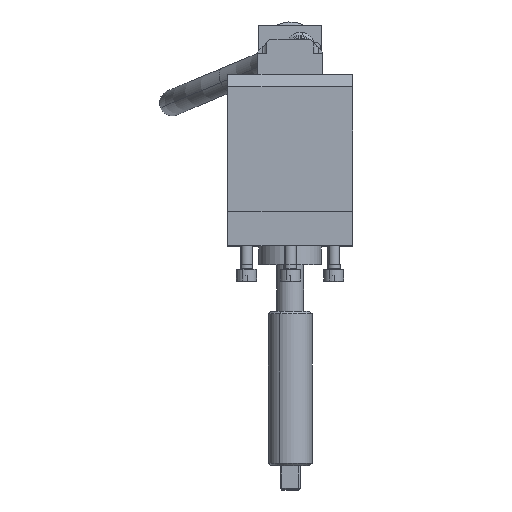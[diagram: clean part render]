
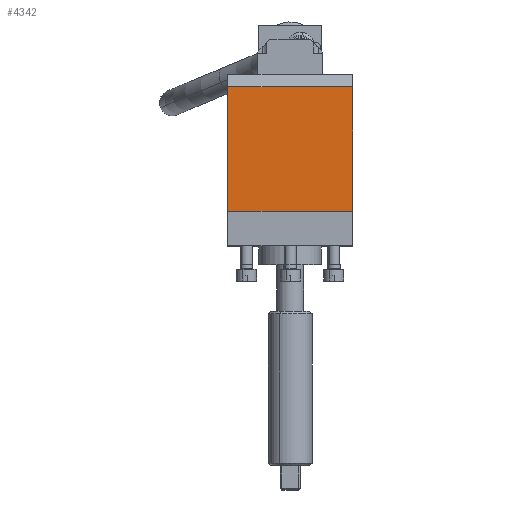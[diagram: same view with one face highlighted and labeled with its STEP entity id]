
A CAD part, top view. The second image highlights one B-rep face of the part: STEP entity #4342.
In plain terms, the highlighted planar face has unit normal (0, 0, 1).
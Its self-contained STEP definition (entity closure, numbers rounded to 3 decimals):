
#4281=CARTESIAN_POINT('Vertex',(40.,32.,536.1)) ;
#4297=CARTESIAN_POINT('Vertex',(-40.,32.,536.1)) ;
#4300=CARTESIAN_POINT('Line Origine',(0.,32.,536.1)) ;
#4312=CARTESIAN_POINT('Axis2P3D Location',(0.,-48.,536.1)) ;
#4317=CARTESIAN_POINT('Line Origine',(40.,-8.,536.1)) ;
#4321=CARTESIAN_POINT('Vertex',(40.,-48.,536.1)) ;
#4324=CARTESIAN_POINT('Line Origine',(-40.,-8.,536.1)) ;
#4328=CARTESIAN_POINT('Vertex',(-40.,-48.,536.1)) ;
#4331=CARTESIAN_POINT('Line Origine',(0.,-48.,536.1)) ;
#4301=DIRECTION('Vector Direction',(1.,0.,0.)) ;
#4313=DIRECTION('Axis2P3D Direction',(0.,0.,-1.)) ;
#4314=DIRECTION('Axis2P3D XDirection',(0.,1.,0.)) ;
#4318=DIRECTION('Vector Direction',(0.,1.,0.)) ;
#4325=DIRECTION('Vector Direction',(0.,1.,0.)) ;
#4332=DIRECTION('Vector Direction',(1.,0.,0.)) ;
#4315=AXIS2_PLACEMENT_3D('Plane Axis2P3D',#4312,#4313,#4314) ;
#4337=ORIENTED_EDGE('',*,*,#4323,.T.) ;
#4338=ORIENTED_EDGE('',*,*,#4304,.F.) ;
#4339=ORIENTED_EDGE('',*,*,#4330,.F.) ;
#4340=ORIENTED_EDGE('',*,*,#4335,.T.) ;
#4302=VECTOR('Line Direction',#4301,1.) ;
#4319=VECTOR('Line Direction',#4318,1.) ;
#4326=VECTOR('Line Direction',#4325,1.) ;
#4333=VECTOR('Line Direction',#4332,1.) ;
#4342=ADVANCED_FACE('',(#4341),#4316,.F.) ;
#4304=EDGE_CURVE('',#4298,#4282,#4303,.T.) ;
#4323=EDGE_CURVE('',#4322,#4282,#4320,.T.) ;
#4330=EDGE_CURVE('',#4329,#4298,#4327,.T.) ;
#4335=EDGE_CURVE('',#4329,#4322,#4334,.T.) ;
#4336=EDGE_LOOP('',(#4337,#4338,#4339,#4340)) ;
#4341=FACE_OUTER_BOUND('',#4336,.T.) ;
#4303=LINE('Line',#4300,#4302) ;
#4320=LINE('Line',#4317,#4319) ;
#4327=LINE('Line',#4324,#4326) ;
#4334=LINE('Line',#4331,#4333) ;
#4316=PLANE('Plane',#4315) ;
#4282=VERTEX_POINT('',#4281) ;
#4298=VERTEX_POINT('',#4297) ;
#4322=VERTEX_POINT('',#4321) ;
#4329=VERTEX_POINT('',#4328) ;
